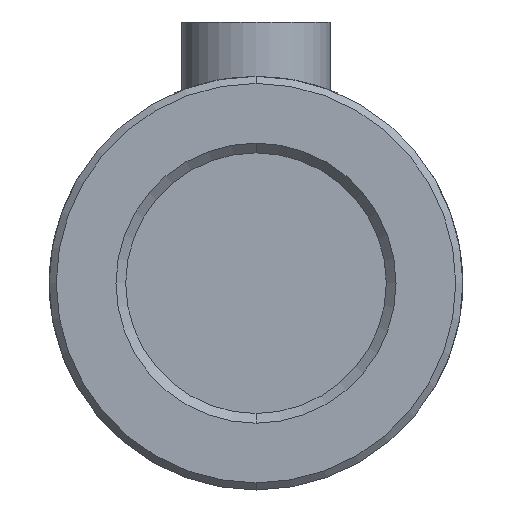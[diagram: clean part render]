
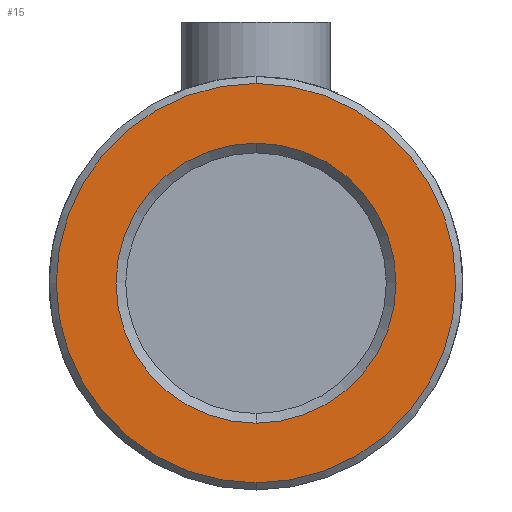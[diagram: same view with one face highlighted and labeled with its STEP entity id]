
A CAD part, front view. The second image highlights one B-rep face of the part: STEP entity #15.
In plain terms, the highlighted planar face has unit normal (0, -1, 0).
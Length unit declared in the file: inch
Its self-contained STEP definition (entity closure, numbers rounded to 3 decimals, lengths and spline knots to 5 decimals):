
#15 = ADVANCED_FACE ( 'NONE', ( #729, #689 ), #309, .F. ) ;
#52 = EDGE_CURVE ( 'NONE', #224, #281, #766, .T. ) ;
#61 = EDGE_CURVE ( 'NONE', #253, #259, #789, .T. ) ;
#76 = CARTESIAN_POINT ( 'NONE',  ( 0., 0., 0. ) ) ;
#96 = DIRECTION ( 'NONE',  ( 0., 0., 1. ) ) ;
#103 = DIRECTION ( 'NONE',  ( 0., -1., 0. ) ) ;
#181 = CARTESIAN_POINT ( 'NONE',  ( 0., 0., 0. ) ) ;
#189 = DIRECTION ( 'NONE',  ( 0., 1., 0. ) ) ;
#215 = DIRECTION ( 'NONE',  ( 0., 0., 1. ) ) ;
#224 = VERTEX_POINT ( 'NONE', #333 ) ;
#253 = VERTEX_POINT ( 'NONE', #327 ) ;
#259 = VERTEX_POINT ( 'NONE', #312 ) ;
#281 = VERTEX_POINT ( 'NONE', #313 ) ;
#289 = DIRECTION ( 'NONE',  ( 0., 0., 1. ) ) ;
#302 = CARTESIAN_POINT ( 'NONE',  ( 0., 0., 0. ) ) ;
#306 = DIRECTION ( 'NONE',  ( 0., 1., 0. ) ) ;
#309 = PLANE ( 'NONE',  #547 ) ;
#312 = CARTESIAN_POINT ( 'NONE',  ( 0., 0., 0.2962 ) ) ;
#313 = CARTESIAN_POINT ( 'NONE',  ( 0., 0., 0.4225 ) ) ;
#316 = DIRECTION ( 'NONE',  ( 0., 0., 1. ) ) ;
#327 = CARTESIAN_POINT ( 'NONE',  ( 0., 0., -0.2962 ) ) ;
#333 = CARTESIAN_POINT ( 'NONE',  ( 0., 0., -0.4225 ) ) ;
#355 = DIRECTION ( 'NONE',  ( 0., 1., 0. ) ) ;
#421 = CARTESIAN_POINT ( 'NONE',  ( 0., 0., 0. ) ) ;
#460 = DIRECTION ( 'NONE',  ( 0., -1., 0. ) ) ;
#462 = DIRECTION ( 'NONE',  ( 0., 0., 1. ) ) ;
#465 = CARTESIAN_POINT ( 'NONE',  ( 0., 0., 0. ) ) ;
#504 = EDGE_CURVE ( 'NONE', #281, #224, #806, .T. ) ;
#528 = EDGE_CURVE ( 'NONE', #259, #253, #838, .T. ) ;
#547 = AXIS2_PLACEMENT_3D ( 'NONE', #302, #306, #289 ) ;
#551 = AXIS2_PLACEMENT_3D ( 'NONE', #465, #355, #316 ) ;
#566 = AXIS2_PLACEMENT_3D ( 'NONE', #421, #460, #462 ) ;
#574 = AXIS2_PLACEMENT_3D ( 'NONE', #76, #103, #96 ) ;
#605 = AXIS2_PLACEMENT_3D ( 'NONE', #181, #189, #215 ) ;
#658 = ORIENTED_EDGE ( 'NONE', *, *, #528, .T. ) ;
#689 = FACE_BOUND ( 'NONE', #715, .T. ) ;
#712 = EDGE_LOOP ( 'NONE', ( #907, #912 ) ) ;
#715 = EDGE_LOOP ( 'NONE', ( #920, #658 ) ) ;
#729 = FACE_OUTER_BOUND ( 'NONE', #712, .T. ) ;
#766 = CIRCLE ( 'NONE', #566, 0.4225 ) ;
#789 = CIRCLE ( 'NONE', #551, 0.2962 ) ;
#806 = CIRCLE ( 'NONE', #574, 0.4225 ) ;
#838 = CIRCLE ( 'NONE', #605, 0.2962 ) ;
#907 = ORIENTED_EDGE ( 'NONE', *, *, #504, .T. ) ;
#912 = ORIENTED_EDGE ( 'NONE', *, *, #52, .T. ) ;
#920 = ORIENTED_EDGE ( 'NONE', *, *, #61, .T. ) ;
